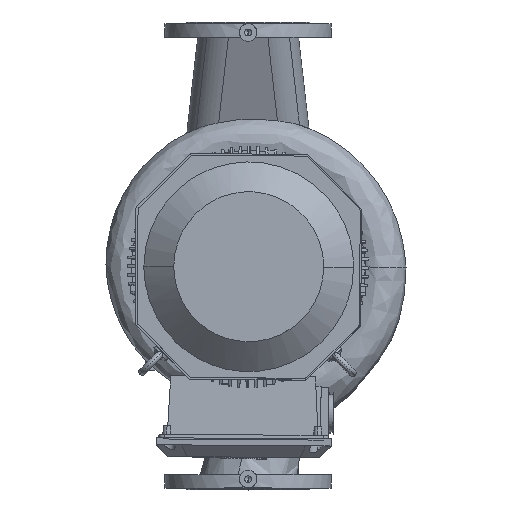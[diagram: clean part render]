
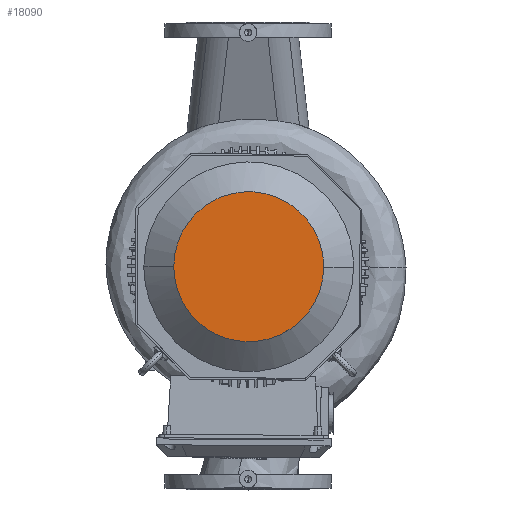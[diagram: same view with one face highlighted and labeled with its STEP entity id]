
A CAD part, top view. The second image highlights one B-rep face of the part: STEP entity #18090.
In plain terms, the highlighted free-form (B-spline) face has degree [1, 1] with [2, 2] control points.
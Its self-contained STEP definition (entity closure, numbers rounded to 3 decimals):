
#18090=ADVANCED_FACE('     F36',(#35155),#35156,.T.);
#18172=EDGE_CURVE('     E99',#35281,#35282,#35283,.T.);
#18176=EDGE_CURVE('     E99',#35282,#35281,#35287,.T.);
#35155=FACE_OUTER_BOUND('',#86429,.T.);
#35156=B_SPLINE_SURFACE_WITH_KNOTS('',1,1,((#86430,#86431),(#86432,#86433)),.UNSPECIFIED.,.F.,.F.,.F.,(2,2),(2,2),(0.044,0.955),(0.039,0.96),.UNSPECIFIED.);
#35281=VERTEX_POINT('',#86874);
#35282=VERTEX_POINT('',#86875);
#35283=(B_SPLINE_CURVE(2,(#86877,#86878,#86879,#86880,#86881),.UNSPECIFIED.,.F.,.F.)B_SPLINE_CURVE_WITH_KNOTS((3,2,3),(64.683,86.244,129.365),.UNSPECIFIED.)RATIONAL_B_SPLINE_CURVE((0.75,0.75,1.0,0.5,1.0))BOUNDED_CURVE()REPRESENTATION_ITEM('')GEOMETRIC_REPRESENTATION_ITEM()CURVE());
#35287=(B_SPLINE_CURVE(2,(#86895,#86896,#86897,#86898,#86899),.UNSPECIFIED.,.F.,.F.)B_SPLINE_CURVE_WITH_KNOTS((3,2,3),(0.0,43.122,64.683),.UNSPECIFIED.)RATIONAL_B_SPLINE_CURVE((1.0,0.5,1.0,0.75,0.75))BOUNDED_CURVE()REPRESENTATION_ITEM('')GEOMETRIC_REPRESENTATION_ITEM()CURVE());
#86429=EDGE_LOOP('',(#102175,#102176));
#86430=CARTESIAN_POINT('',(-269.045,153.272,-215.6));
#86431=CARTESIAN_POINT('',(-269.045,-103.789,-215.6));
#86432=CARTESIAN_POINT('',(-12.172,153.272,-215.6));
#86433=CARTESIAN_POINT('',(-12.172,-103.789,-215.6));
#86874=CARTESIAN_POINT('',(-268.613,24.546,-215.6));
#86875=CARTESIAN_POINT('',(-12.181,24.546,-215.6));
#86877=CARTESIAN_POINT('',(-268.613,24.546,-215.6));
#86878=CARTESIAN_POINT('',(-268.613,-49.479,-215.6));
#86879=CARTESIAN_POINT('',(-204.505,-86.492,-215.6));
#86880=CARTESIAN_POINT('',(-12.181,-197.531,-215.6));
#86881=CARTESIAN_POINT('',(-12.181,24.546,-215.6));
#86895=CARTESIAN_POINT('',(-12.181,24.546,-215.6));
#86896=CARTESIAN_POINT('',(-12.181,246.623,-215.6));
#86897=CARTESIAN_POINT('',(-204.505,135.585,-215.6));
#86898=CARTESIAN_POINT('',(-268.613,98.572,-215.6));
#86899=CARTESIAN_POINT('',(-268.613,24.546,-215.6));
#102175=ORIENTED_EDGE('',*,*,#18176,.F.);
#102176=ORIENTED_EDGE('',*,*,#18172,.F.);
